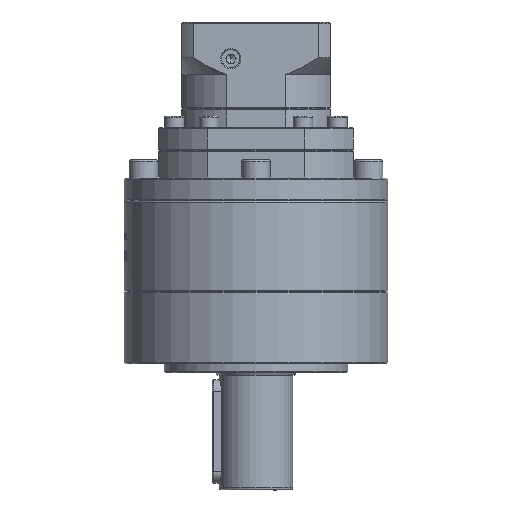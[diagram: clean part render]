
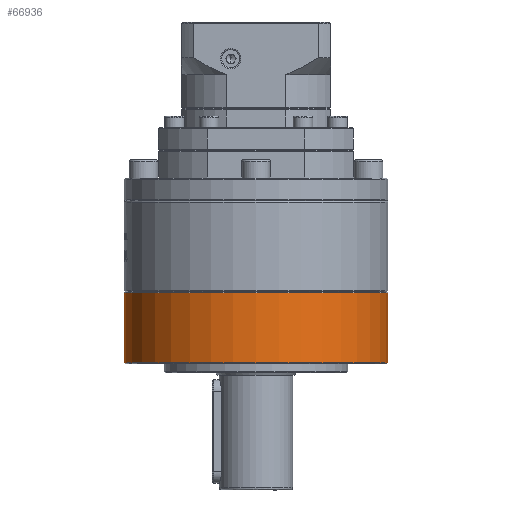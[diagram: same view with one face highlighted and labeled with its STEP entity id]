
A CAD part, left-side view. The second image highlights one B-rep face of the part: STEP entity #66936.
In plain terms, the highlighted cylindrical face has radius 57.5 mm (diameter 115 mm), a partial arc.
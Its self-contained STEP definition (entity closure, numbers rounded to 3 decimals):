
#2981 = ORIENTED_EDGE ( 'NONE', *, *, #17637, .F. ) ;
#3254 = EDGE_LOOP ( 'NONE', ( #46995, #65958, #46618, #2981 ) ) ;
#10915 = CARTESIAN_POINT ( 'NONE',  ( 45.743, 64.477, -52.15 ) ) ;
#11017 = VERTEX_POINT ( 'NONE', #53958 ) ;
#12432 = VECTOR ( 'NONE', #109795, 1000. ) ;
#17637 = EDGE_CURVE ( 'NONE', #66680, #11017, #68343, .T. ) ;
#21233 = EDGE_CURVE ( 'NONE', #66680, #124166, #107658, .T. ) ;
#25471 = DIRECTION ( 'NONE',  ( 0., 0., 1. ) ) ;
#43273 = FACE_OUTER_BOUND ( 'NONE', #3254, .T. ) ;
#44981 = VECTOR ( 'NONE', #79870, 1000. ) ;
#46618 = ORIENTED_EDGE ( 'NONE', *, *, #64216, .F. ) ;
#46995 = ORIENTED_EDGE ( 'NONE', *, *, #21233, .T. ) ;
#49754 = DIRECTION ( 'NONE',  ( 0., 0., 1. ) ) ;
#49849 = CARTESIAN_POINT ( 'NONE',  ( 45.743, -50.523, -64.65 ) ) ;
#50726 = CARTESIAN_POINT ( 'NONE',  ( 45.743, -50.523, -52.15 ) ) ;
#51344 = DIRECTION ( 'NONE',  ( 0., 0., 1. ) ) ;
#51866 = AXIS2_PLACEMENT_3D ( 'NONE', #109188, #49754, #119198 ) ;
#53958 = CARTESIAN_POINT ( 'NONE',  ( 45.743, 64.477, -34.15 ) ) ;
#53979 = AXIS2_PLACEMENT_3D ( 'NONE', #100804, #51344, #91286 ) ;
#54941 = CIRCLE ( 'NONE', #51866, 57.5 ) ;
#64216 = EDGE_CURVE ( 'NONE', #11017, #97014, #54941, .T. ) ;
#65958 = ORIENTED_EDGE ( 'NONE', *, *, #83207, .T. ) ;
#66680 = VERTEX_POINT ( 'NONE', #115643 ) ;
#66936 = ADVANCED_FACE ( 'NONE', ( #43273 ), #110066, .T. ) ;
#68343 = LINE ( 'NONE', #10915, #12432 ) ;
#79870 = DIRECTION ( 'NONE',  ( 0., 0., 1. ) ) ;
#83207 = EDGE_CURVE ( 'NONE', #124166, #97014, #121112, .T. ) ;
#84955 = CARTESIAN_POINT ( 'NONE',  ( 45.743, 6.977, -64.65 ) ) ;
#91286 = DIRECTION ( 'NONE',  ( 0., 1., 0. ) ) ;
#94944 = DIRECTION ( 'NONE',  ( 0., 1., 0. ) ) ;
#97014 = VERTEX_POINT ( 'NONE', #110821 ) ;
#100804 = CARTESIAN_POINT ( 'NONE',  ( 45.743, 6.977, -52.15 ) ) ;
#107658 = CIRCLE ( 'NONE', #123477, 57.5 ) ;
#109188 = CARTESIAN_POINT ( 'NONE',  ( 45.743, 6.977, -34.15 ) ) ;
#109795 = DIRECTION ( 'NONE',  ( 0., 0., 1. ) ) ;
#110066 = CYLINDRICAL_SURFACE ( 'NONE', #53979, 57.5 ) ;
#110821 = CARTESIAN_POINT ( 'NONE',  ( 45.743, -50.523, -34.15 ) ) ;
#115643 = CARTESIAN_POINT ( 'NONE',  ( 45.743, 64.477, -64.65 ) ) ;
#119198 = DIRECTION ( 'NONE',  ( 0., -1., 0. ) ) ;
#121112 = LINE ( 'NONE', #50726, #44981 ) ;
#123477 = AXIS2_PLACEMENT_3D ( 'NONE', #84955, #25471, #94944 ) ;
#124166 = VERTEX_POINT ( 'NONE', #49849 ) ;
